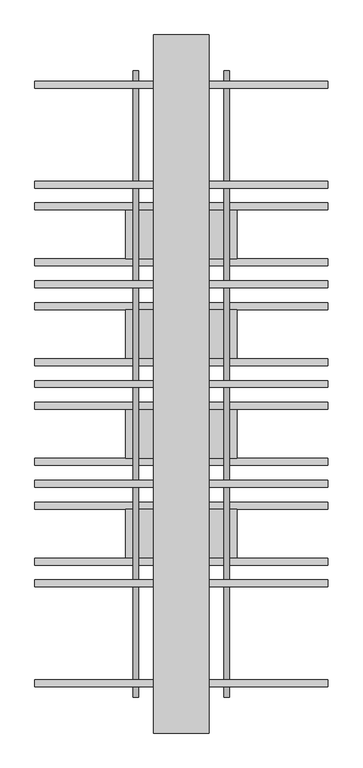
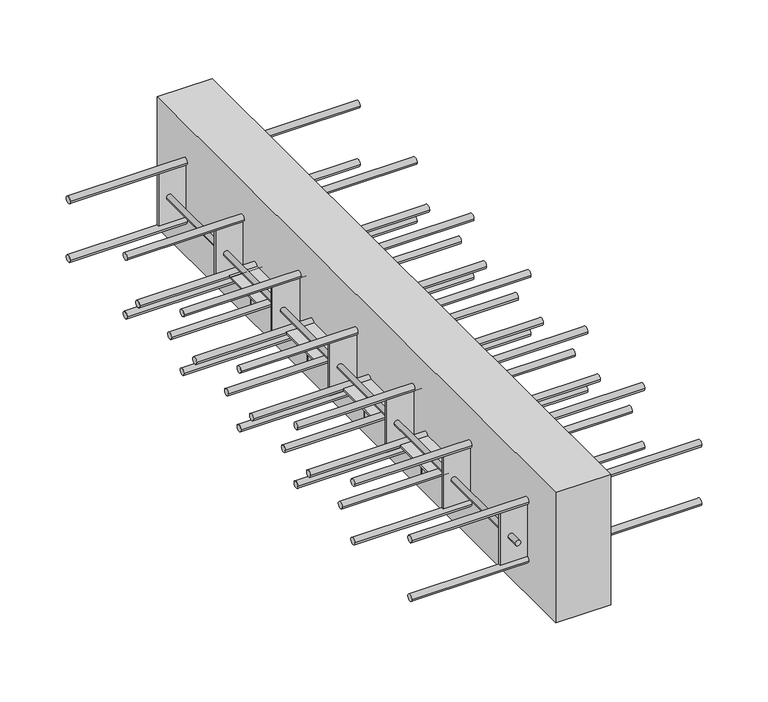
"""IFC4 building model written with IfcOpenShell, lengths in millimetres: proxy geometry, ACINOXplus_Typenreihe_Q : QF+ S4."""

from ifc_helpers import new_model, si_unit, point, frame, frame_2d, origin, place, context, project, spatial, polyline, circle_curve, trimmed, segment, composite_curve, outline, extrude, source, transform, mapped, element, save
from ifc_brep_helpers import plane_surface, cylinder_surface, advanced_brep


def generic_models_2d4b5c1f(model_context):
    return source(origin(), model_context, "Body", "SolidModel", [
        extrude(outline(composite_curve([segment(trimmed(circle_curve(frame_2d((-254.2857143, -109.0)), 5.0), [point((-259.2857143, -109.0))], [point((-249.2857143, -109.0))], False, "CARTESIAN"), True, "CONTINUOUS"), segment(trimmed(circle_curve(frame_2d((-254.2857143, -109.0)), 5.0), [point((-249.2857143, -109.0))], [point((-259.2857143, -109.0))], False, "CARTESIAN"), True, "CONTINUOUS")], self_intersect=False)), frame((-210.0, 0.0, 0.0), z_axis=(1.0, 0.0, 0.0), x_axis=(0.0, 1.0, 0.0)), (0.0, 0.0, 1.0), 420.0),
        extrude(outline(composite_curve([segment(trimmed(circle_curve(frame_2d((-174.2857143, -109.0)), 5.0), [point((-179.2857143, -109.0))], [point((-169.2857143, -109.0))], False, "CARTESIAN"), True, "CONTINUOUS"), segment(trimmed(circle_curve(frame_2d((-174.2857143, -109.0)), 5.0), [point((-169.2857143, -109.0))], [point((-179.2857143, -109.0))], False, "CARTESIAN"), True, "CONTINUOUS")], self_intersect=False)), frame((-210.0, 0.0, 0.0), z_axis=(1.0, 0.0, 0.0), x_axis=(0.0, 1.0, 0.0)), (0.0, 0.0, 1.0), 420.0),
        advanced_brep(
        [(-69.0, -214.2857143, -137.0), (-61.0, -214.2857143, -137.0), (61.0, -214.2857143, -137.0), (69.0, -214.2857143, -137.0), (-61.0, -214.2857143, -110.5), (-69.0, -214.2857143, -110.5), (69.0, -214.2857143, -110.5), (61.0, -214.2857143, -110.5), (80.0, -179.2857143, -107.5), (-80.0, -179.2857143, -107.5), (-80.0, -249.2857143, -107.5), (80.0, -249.2857143, -107.5), (80.0, -179.2857143, -110.5), (80.0, -249.2857143, -110.5), (-80.0, -249.2857143, -110.5), (-80.0, -179.2857143, -110.5)],
        [
            (0, 1, circle_curve(frame((-65.0, -214.2857143, -137.0), z_axis=(0.0, 0.0, -1.0), x_axis=(1.0, 0.0, 0.0)), 4.0)),
            (1, 0, circle_curve(frame((-65.0, -214.2857143, -137.0), z_axis=(0.0, 0.0, -1.0), x_axis=(1.0, 0.0, 0.0)), 4.0)),
            (2, 3, circle_curve(frame((65.0, -214.2857143, -137.0), z_axis=(0.0, 0.0, -1.0), x_axis=(1.0, 0.0, 0.0)), 4.0)),
            (3, 2, circle_curve(frame((65.0, -214.2857143, -137.0), z_axis=(0.0, 0.0, -1.0), x_axis=(1.0, 0.0, 0.0)), 4.0)),
            (1, 4),
            (4, 5, circle_curve(frame((-65.0, -214.2857143, -110.5), z_axis=(0.0, 0.0, -1.0), x_axis=(1.0, 0.0, 0.0)), 4.0)),
            (5, 0),
            (5, 4, circle_curve(frame((-65.0, -214.2857143, -110.5), z_axis=(0.0, 0.0, -1.0), x_axis=(1.0, 0.0, 0.0)), 4.0)),
            (3, 6),
            (6, 7, circle_curve(frame((65.0, -214.2857143, -110.5), z_axis=(0.0, 0.0, -1.0), x_axis=(1.0, 0.0, 0.0)), 4.0)),
            (7, 2),
            (7, 6, circle_curve(frame((65.0, -214.2857143, -110.5), z_axis=(0.0, 0.0, -1.0), x_axis=(1.0, 0.0, 0.0)), 4.0)),
            (8, 9),
            (9, 10),
            (10, 11),
            (11, 8),
            (12, 13),
            (13, 14),
            (14, 15),
            (15, 12),
            (8, 12),
            (15, 9),
            (14, 10),
            (13, 11),
        ],
        [
            plane_surface(frame((-61.0, -214.2857143, -137.0), z_axis=(0.0, 0.0, -1.0), x_axis=(0.0, -1.0, 0.0))),
            cylinder_surface(frame((-65.0, -214.2857143, -137.0), z_axis=(0.0, 0.0, 1.0), x_axis=(1.0, 0.0, 0.0)), 4.0),
            cylinder_surface(frame((65.0, -214.2857143, -109.0), z_axis=(0.0, 0.0, 1.0), x_axis=(1.0, 0.0, 0.0)), 4.0),
            plane_surface(frame((-80.0, -179.2857143, -107.5), z_axis=(0.0, 0.0, 1.0), x_axis=(-1.0, 0.0, 0.0))),
            plane_surface(frame((-80.0, -179.2857143, -110.5), z_axis=(0.0, 0.0, -1.0), x_axis=(1.0, 0.0, 0.0))),
            plane_surface(frame((80.0, -179.2857143, -107.5), z_axis=(0.0, 1.0, 0.0), x_axis=(0.0, 0.0, -1.0))),
            plane_surface(frame((-80.0, -179.2857143, -107.5), z_axis=(-1.0, 0.0, 0.0), x_axis=(0.0, 0.0, -1.0))),
            plane_surface(frame((-80.0, -249.2857143, -107.5), z_axis=(0.0, -1.0, 0.0), x_axis=(0.0, 0.0, -1.0))),
            plane_surface(frame((80.0, -249.2857143, -107.5), z_axis=(1.0, 0.0, 0.0), x_axis=(0.0, 0.0, -1.0))),
        ],
        [
            (0, [[1, 2]]),
            (0, [[3, 4]]),
            (1, [[-2, 5, 6, 7]]),
            (1, [[-1, -7, 8, -5]]),
            (2, [[-4, 9, 10, 11]]),
            (2, [[-3, -11, 12, -9]]),
            (3, [[13, 14, 15, 16]]),
            (4, [[17, 18, 19, 20], [-6, -8], [-10, -12]]),
            (5, [[-13, 21, -20, 22]]),
            (6, [[-14, -22, -19, 23]]),
            (7, [[-15, -23, -18, 24]]),
            (8, [[-16, -24, -17, -21]]),
        ],
    ),
        extrude(outline(composite_curve([segment(trimmed(circle_curve(frame_2d((174.2857143, -109.0)), 5.0), [point((169.2857143, -109.0))], [point((179.2857143, -109.0))], False, "CARTESIAN"), True, "CONTINUOUS"), segment(trimmed(circle_curve(frame_2d((174.2857143, -109.0)), 5.0), [point((179.2857143, -109.0))], [point((169.2857143, -109.0))], False, "CARTESIAN"), True, "CONTINUOUS")], self_intersect=False)), frame((-210.0, 0.0, 0.0), z_axis=(1.0, 0.0, 0.0), x_axis=(0.0, 1.0, 0.0)), (0.0, 0.0, 1.0), 420.0),
        extrude(outline(composite_curve([segment(trimmed(circle_curve(frame_2d((254.2857143, -109.0)), 5.0), [point((249.2857143, -109.0))], [point((259.2857143, -109.0))], False, "CARTESIAN"), True, "CONTINUOUS"), segment(trimmed(circle_curve(frame_2d((254.2857143, -109.0)), 5.0), [point((259.2857143, -109.0))], [point((249.2857143, -109.0))], False, "CARTESIAN"), True, "CONTINUOUS")], self_intersect=False)), frame((-210.0, 0.0, 0.0), z_axis=(1.0, 0.0, 0.0), x_axis=(0.0, 1.0, 0.0)), (0.0, 0.0, 1.0), 420.0),
        advanced_brep(
        [(-69.0, 214.2857143, -137.0), (-61.0, 214.2857143, -137.0), (61.0, 214.2857143, -137.0), (69.0, 214.2857143, -137.0), (-61.0, 214.2857143, -110.5), (-69.0, 214.2857143, -110.5), (69.0, 214.2857143, -110.5), (61.0, 214.2857143, -110.5), (80.0, 249.2857143, -107.5), (-80.0, 249.2857143, -107.5), (-80.0, 179.2857143, -107.5), (80.0, 179.2857143, -107.5), (80.0, 249.2857143, -110.5), (80.0, 179.2857143, -110.5), (-80.0, 179.2857143, -110.5), (-80.0, 249.2857143, -110.5)],
        [
            (0, 1, circle_curve(frame((-65.0, 214.2857143, -137.0), z_axis=(0.0, 0.0, -1.0), x_axis=(1.0, 0.0, 0.0)), 4.0)),
            (1, 0, circle_curve(frame((-65.0, 214.2857143, -137.0), z_axis=(0.0, 0.0, -1.0), x_axis=(1.0, 0.0, 0.0)), 4.0)),
            (2, 3, circle_curve(frame((65.0, 214.2857143, -137.0), z_axis=(0.0, 0.0, -1.0), x_axis=(1.0, 0.0, 0.0)), 4.0)),
            (3, 2, circle_curve(frame((65.0, 214.2857143, -137.0), z_axis=(0.0, 0.0, -1.0), x_axis=(1.0, 0.0, 0.0)), 4.0)),
            (1, 4),
            (4, 5, circle_curve(frame((-65.0, 214.2857143, -110.5), z_axis=(0.0, 0.0, -1.0), x_axis=(1.0, 0.0, 0.0)), 4.0)),
            (5, 0),
            (5, 4, circle_curve(frame((-65.0, 214.2857143, -110.5), z_axis=(0.0, 0.0, -1.0), x_axis=(1.0, 0.0, 0.0)), 4.0)),
            (3, 6),
            (6, 7, circle_curve(frame((65.0, 214.2857143, -110.5), z_axis=(0.0, 0.0, -1.0), x_axis=(1.0, 0.0, 0.0)), 4.0)),
            (7, 2),
            (7, 6, circle_curve(frame((65.0, 214.2857143, -110.5), z_axis=(0.0, 0.0, -1.0), x_axis=(1.0, 0.0, 0.0)), 4.0)),
            (8, 9),
            (9, 10),
            (10, 11),
            (11, 8),
            (12, 13),
            (13, 14),
            (14, 15),
            (15, 12),
            (8, 12),
            (15, 9),
            (14, 10),
            (13, 11),
        ],
        [
            plane_surface(frame((-61.0, 214.2857143, -137.0), z_axis=(0.0, 0.0, -1.0), x_axis=(0.0, -1.0, 0.0))),
            cylinder_surface(frame((-65.0, 214.2857143, -137.0), z_axis=(0.0, 0.0, 1.0), x_axis=(1.0, 0.0, 0.0)), 4.0),
            cylinder_surface(frame((65.0, 214.2857143, -109.0), z_axis=(0.0, 0.0, 1.0), x_axis=(1.0, 0.0, 0.0)), 4.0),
            plane_surface(frame((-80.0, 249.2857143, -107.5), z_axis=(0.0, 0.0, 1.0), x_axis=(-1.0, 0.0, 0.0))),
            plane_surface(frame((-80.0, 249.2857143, -110.5), z_axis=(0.0, 0.0, -1.0), x_axis=(1.0, 0.0, 0.0))),
            plane_surface(frame((80.0, 249.2857143, -107.5), z_axis=(0.0, 1.0, 0.0), x_axis=(0.0, 0.0, -1.0))),
            plane_surface(frame((-80.0, 249.2857143, -107.5), z_axis=(-1.0, 0.0, 0.0), x_axis=(0.0, 0.0, -1.0))),
            plane_surface(frame((-80.0, 179.2857143, -107.5), z_axis=(0.0, -1.0, 0.0), x_axis=(0.0, 0.0, -1.0))),
            plane_surface(frame((80.0, 179.2857143, -107.5), z_axis=(1.0, 0.0, 0.0), x_axis=(0.0, 0.0, -1.0))),
        ],
        [
            (0, [[1, 2]]),
            (0, [[3, 4]]),
            (1, [[-2, 5, 6, 7]]),
            (1, [[-1, -7, 8, -5]]),
            (2, [[-4, 9, 10, 11]]),
            (2, [[-3, -11, 12, -9]]),
            (3, [[13, 14, 15, 16]]),
            (4, [[17, 18, 19, 20], [-6, -8], [-10, -12]]),
            (5, [[-13, 21, -20, 22]]),
            (6, [[-14, -22, -19, 23]]),
            (7, [[-15, -23, -18, 24]]),
            (8, [[-16, -24, -17, -21]]),
        ],
    ),
        extrude(outline(composite_curve([segment(trimmed(circle_curve(frame_2d((-111.4285714, -109.0)), 5.0), [point((-116.4285714, -109.0))], [point((-106.4285714, -109.0))], False, "CARTESIAN"), True, "CONTINUOUS"), segment(trimmed(circle_curve(frame_2d((-111.4285714, -109.0)), 5.0), [point((-106.4285714, -109.0))], [point((-116.4285714, -109.0))], False, "CARTESIAN"), True, "CONTINUOUS")], self_intersect=False)), frame((-210.0, 0.0, 0.0), z_axis=(1.0, 0.0, 0.0), x_axis=(0.0, 1.0, 0.0)), (0.0, 0.0, 1.0), 420.0),
        extrude(outline(composite_curve([segment(trimmed(circle_curve(frame_2d((-31.4285714, -109.0)), 5.0), [point((-36.4285714, -109.0))], [point((-26.4285714, -109.0))], False, "CARTESIAN"), True, "CONTINUOUS"), segment(trimmed(circle_curve(frame_2d((-31.4285714, -109.0)), 5.0), [point((-26.4285714, -109.0))], [point((-36.4285714, -109.0))], False, "CARTESIAN"), True, "CONTINUOUS")], self_intersect=False)), frame((-210.0, 0.0, 0.0), z_axis=(1.0, 0.0, 0.0), x_axis=(0.0, 1.0, 0.0)), (0.0, 0.0, 1.0), 420.0),
        advanced_brep(
        [(-69.0, -71.4285714, -137.0), (-61.0, -71.4285714, -137.0), (61.0, -71.4285714, -137.0), (69.0, -71.4285714, -137.0), (-61.0, -71.4285714, -110.5), (-69.0, -71.4285714, -110.5), (69.0, -71.4285714, -110.5), (61.0, -71.4285714, -110.5), (80.0, -36.4285714, -107.5), (-80.0, -36.4285714, -107.5), (-80.0, -106.4285714, -107.5), (80.0, -106.4285714, -107.5), (80.0, -36.4285714, -110.5), (80.0, -106.4285714, -110.5), (-80.0, -106.4285714, -110.5), (-80.0, -36.4285714, -110.5)],
        [
            (0, 1, circle_curve(frame((-65.0, -71.4285714, -137.0), z_axis=(0.0, 0.0, -1.0), x_axis=(1.0, 0.0, 0.0)), 4.0)),
            (1, 0, circle_curve(frame((-65.0, -71.4285714, -137.0), z_axis=(0.0, 0.0, -1.0), x_axis=(1.0, 0.0, 0.0)), 4.0)),
            (2, 3, circle_curve(frame((65.0, -71.4285714, -137.0), z_axis=(0.0, 0.0, -1.0), x_axis=(1.0, 0.0, 0.0)), 4.0)),
            (3, 2, circle_curve(frame((65.0, -71.4285714, -137.0), z_axis=(0.0, 0.0, -1.0), x_axis=(1.0, 0.0, 0.0)), 4.0)),
            (1, 4),
            (4, 5, circle_curve(frame((-65.0, -71.4285714, -110.5), z_axis=(0.0, 0.0, -1.0), x_axis=(1.0, 0.0, 0.0)), 4.0)),
            (5, 0),
            (5, 4, circle_curve(frame((-65.0, -71.4285714, -110.5), z_axis=(0.0, 0.0, -1.0), x_axis=(1.0, 0.0, 0.0)), 4.0)),
            (3, 6),
            (6, 7, circle_curve(frame((65.0, -71.4285714, -110.5), z_axis=(0.0, 0.0, -1.0), x_axis=(1.0, 0.0, 0.0)), 4.0)),
            (7, 2),
            (7, 6, circle_curve(frame((65.0, -71.4285714, -110.5), z_axis=(0.0, 0.0, -1.0), x_axis=(1.0, 0.0, 0.0)), 4.0)),
            (8, 9),
            (9, 10),
            (10, 11),
            (11, 8),
            (12, 13),
            (13, 14),
            (14, 15),
            (15, 12),
            (8, 12),
            (15, 9),
            (14, 10),
            (13, 11),
        ],
        [
            plane_surface(frame((-61.0, -71.4285714, -137.0), z_axis=(0.0, 0.0, -1.0), x_axis=(0.0, -1.0, 0.0))),
            cylinder_surface(frame((-65.0, -71.4285714, -137.0), z_axis=(0.0, 0.0, 1.0), x_axis=(1.0, 0.0, 0.0)), 4.0),
            cylinder_surface(frame((65.0, -71.4285714, -109.0), z_axis=(0.0, 0.0, 1.0), x_axis=(1.0, 0.0, 0.0)), 4.0),
            plane_surface(frame((-80.0, -36.4285714, -107.5), z_axis=(0.0, 0.0, 1.0), x_axis=(-1.0, 0.0, 0.0))),
            plane_surface(frame((-80.0, -36.4285714, -110.5), z_axis=(0.0, 0.0, -1.0), x_axis=(1.0, 0.0, 0.0))),
            plane_surface(frame((80.0, -36.4285714, -107.5), z_axis=(0.0, 1.0, 0.0), x_axis=(0.0, 0.0, -1.0))),
            plane_surface(frame((-80.0, -36.4285714, -107.5), z_axis=(-1.0, 0.0, 0.0), x_axis=(0.0, 0.0, -1.0))),
            plane_surface(frame((-80.0, -106.4285714, -107.5), z_axis=(0.0, -1.0, 0.0), x_axis=(0.0, 0.0, -1.0))),
            plane_surface(frame((80.0, -106.4285714, -107.5), z_axis=(1.0, 0.0, 0.0), x_axis=(0.0, 0.0, -1.0))),
        ],
        [
            (0, [[1, 2]]),
            (0, [[3, 4]]),
            (1, [[-2, 5, 6, 7]]),
            (1, [[-1, -7, 8, -5]]),
            (2, [[-4, 9, 10, 11]]),
            (2, [[-3, -11, 12, -9]]),
            (3, [[13, 14, 15, 16]]),
            (4, [[17, 18, 19, 20], [-6, -8], [-10, -12]]),
            (5, [[-13, 21, -20, 22]]),
            (6, [[-14, -22, -19, 23]]),
            (7, [[-15, -23, -18, 24]]),
            (8, [[-16, -24, -17, -21]]),
        ],
    ),
        extrude(outline(composite_curve([segment(trimmed(circle_curve(frame_2d((31.4285714, -109.0)), 5.0), [point((26.4285714, -109.0))], [point((36.4285714, -109.0))], False, "CARTESIAN"), True, "CONTINUOUS"), segment(trimmed(circle_curve(frame_2d((31.4285714, -109.0)), 5.0), [point((36.4285714, -109.0))], [point((26.4285714, -109.0))], False, "CARTESIAN"), True, "CONTINUOUS")], self_intersect=False)), frame((-210.0, 0.0, 0.0), z_axis=(1.0, 0.0, 0.0), x_axis=(0.0, 1.0, 0.0)), (0.0, 0.0, 1.0), 420.0),
        extrude(outline(composite_curve([segment(trimmed(circle_curve(frame_2d((111.4285714, -109.0)), 5.0), [point((106.4285714, -109.0))], [point((116.4285714, -109.0))], False, "CARTESIAN"), True, "CONTINUOUS"), segment(trimmed(circle_curve(frame_2d((111.4285714, -109.0)), 5.0), [point((116.4285714, -109.0))], [point((106.4285714, -109.0))], False, "CARTESIAN"), True, "CONTINUOUS")], self_intersect=False)), frame((-210.0, 0.0, 0.0), z_axis=(1.0, 0.0, 0.0), x_axis=(0.0, 1.0, 0.0)), (0.0, 0.0, 1.0), 420.0),
        advanced_brep(
        [(-69.0, 71.4285714, -137.0), (-61.0, 71.4285714, -137.0), (61.0, 71.4285714, -137.0), (69.0, 71.4285714, -137.0), (-61.0, 71.4285714, -110.5), (-69.0, 71.4285714, -110.5), (69.0, 71.4285714, -110.5), (61.0, 71.4285714, -110.5), (80.0, 106.4285714, -107.5), (-80.0, 106.4285714, -107.5), (-80.0, 36.4285714, -107.5), (80.0, 36.4285714, -107.5), (80.0, 106.4285714, -110.5), (80.0, 36.4285714, -110.5), (-80.0, 36.4285714, -110.5), (-80.0, 106.4285714, -110.5)],
        [
            (0, 1, circle_curve(frame((-65.0, 71.4285714, -137.0), z_axis=(0.0, 0.0, -1.0), x_axis=(1.0, 0.0, 0.0)), 4.0)),
            (1, 0, circle_curve(frame((-65.0, 71.4285714, -137.0), z_axis=(0.0, 0.0, -1.0), x_axis=(1.0, 0.0, 0.0)), 4.0)),
            (2, 3, circle_curve(frame((65.0, 71.4285714, -137.0), z_axis=(0.0, 0.0, -1.0), x_axis=(1.0, 0.0, 0.0)), 4.0)),
            (3, 2, circle_curve(frame((65.0, 71.4285714, -137.0), z_axis=(0.0, 0.0, -1.0), x_axis=(1.0, 0.0, 0.0)), 4.0)),
            (1, 4),
            (4, 5, circle_curve(frame((-65.0, 71.4285714, -110.5), z_axis=(0.0, 0.0, -1.0), x_axis=(1.0, 0.0, 0.0)), 4.0)),
            (5, 0),
            (5, 4, circle_curve(frame((-65.0, 71.4285714, -110.5), z_axis=(0.0, 0.0, -1.0), x_axis=(1.0, 0.0, 0.0)), 4.0)),
            (3, 6),
            (6, 7, circle_curve(frame((65.0, 71.4285714, -110.5), z_axis=(0.0, 0.0, -1.0), x_axis=(1.0, 0.0, 0.0)), 4.0)),
            (7, 2),
            (7, 6, circle_curve(frame((65.0, 71.4285714, -110.5), z_axis=(0.0, 0.0, -1.0), x_axis=(1.0, 0.0, 0.0)), 4.0)),
            (8, 9),
            (9, 10),
            (10, 11),
            (11, 8),
            (12, 13),
            (13, 14),
            (14, 15),
            (15, 12),
            (8, 12),
            (15, 9),
            (14, 10),
            (13, 11),
        ],
        [
            plane_surface(frame((-61.0, 71.4285714, -137.0), z_axis=(0.0, 0.0, -1.0), x_axis=(0.0, -1.0, 0.0))),
            cylinder_surface(frame((-65.0, 71.4285714, -137.0), z_axis=(0.0, 0.0, 1.0), x_axis=(1.0, 0.0, 0.0)), 4.0),
            cylinder_surface(frame((65.0, 71.4285714, -109.0), z_axis=(0.0, 0.0, 1.0), x_axis=(1.0, 0.0, 0.0)), 4.0),
            plane_surface(frame((-80.0, 106.4285714, -107.5), z_axis=(0.0, 0.0, 1.0), x_axis=(-1.0, 0.0, 0.0))),
            plane_surface(frame((-80.0, 106.4285714, -110.5), z_axis=(0.0, 0.0, -1.0), x_axis=(1.0, 0.0, 0.0))),
            plane_surface(frame((80.0, 106.4285714, -107.5), z_axis=(0.0, 1.0, 0.0), x_axis=(0.0, 0.0, -1.0))),
            plane_surface(frame((-80.0, 106.4285714, -107.5), z_axis=(-1.0, 0.0, 0.0), x_axis=(0.0, 0.0, -1.0))),
            plane_surface(frame((-80.0, 36.4285714, -107.5), z_axis=(0.0, -1.0, 0.0), x_axis=(0.0, 0.0, -1.0))),
            plane_surface(frame((80.0, 36.4285714, -107.5), z_axis=(1.0, 0.0, 0.0), x_axis=(0.0, 0.0, -1.0))),
        ],
        [
            (0, [[1, 2]]),
            (0, [[3, 4]]),
            (1, [[-2, 5, 6, 7]]),
            (1, [[-1, -7, 8, -5]]),
            (2, [[-4, 9, 10, 11]]),
            (2, [[-3, -11, 12, -9]]),
            (3, [[13, 14, 15, 16]]),
            (4, [[17, 18, 19, 20], [-6, -8], [-10, -12]]),
            (5, [[-13, 21, -20, 22]]),
            (6, [[-14, -22, -19, 23]]),
            (7, [[-15, -23, -18, 24]]),
            (8, [[-16, -24, -17, -21]]),
        ],
    ),
        extrude(outline(polyline([(40.0, 500.0), (40.0, -500.0), (-40.0, -500.0), (-40.0, 500.0), (40.0, 500.0)])), frame((0.0, 0.0, -200.0), z_axis=(0.0, 0.0, 1.0), x_axis=(1.0, 0.0, 0.0)), (0.0, 0.0, 1.0), 200.0),
        extrude(outline(polyline([(80.0, -284.2142857), (80.0, -287.2142857), (-80.0, -287.2142857), (-80.0, -284.2142857), (80.0, -284.2142857)])), frame((0.0, 0.0, -140.0), z_axis=(0.0, 0.0, 1.0), x_axis=(1.0, 0.0, 0.0)), (0.0, 0.0, 1.0), 80.0),
        extrude(outline(polyline([(80.0, -141.3571429), (80.0, -144.3571429), (-80.0, -144.3571429), (-80.0, -141.3571429), (80.0, -141.3571429)])), frame((0.0, 0.0, -140.0), z_axis=(0.0, 0.0, 1.0), x_axis=(1.0, 0.0, 0.0)), (0.0, 0.0, 1.0), 80.0),
        extrude(outline(polyline([(80.0, 1.5), (80.0, -1.5), (-80.0, -1.5), (-80.0, 1.5), (80.0, 1.5)])), frame((0.0, 0.0, -140.0), z_axis=(0.0, 0.0, 1.0), x_axis=(1.0, 0.0, 0.0)), (0.0, 0.0, 1.0), 80.0),
        extrude(outline(polyline([(80.0, 144.3571429), (80.0, 141.3571429), (-80.0, 141.3571429), (-80.0, 144.3571429), (80.0, 144.3571429)])), frame((0.0, 0.0, -140.0), z_axis=(0.0, 0.0, 1.0), x_axis=(1.0, 0.0, 0.0)), (0.0, 0.0, 1.0), 80.0),
        extrude(outline(polyline([(80.0, 287.2142857), (80.0, 284.2142857), (-80.0, 284.2142857), (-80.0, 287.2142857), (80.0, 287.2142857)])), frame((0.0, 0.0, -140.0), z_axis=(0.0, 0.0, 1.0), x_axis=(1.0, 0.0, 0.0)), (0.0, 0.0, 1.0), 80.0),
        extrude(outline(polyline([(80.0, -427.0714286), (80.0, -430.0714286), (-80.0, -430.0714286), (-80.0, -427.0714286), (80.0, -427.0714286)])), frame((0.0, 0.0, -140.0), z_axis=(0.0, 0.0, 1.0), x_axis=(1.0, 0.0, 0.0)), (0.0, 0.0, 1.0), 80.0),
        extrude(outline(polyline([(80.0, 430.0714286), (80.0, 427.0714286), (-80.0, 427.0714286), (-80.0, 430.0714286), (80.0, 430.0714286)])), frame((0.0, 0.0, -140.0), z_axis=(0.0, 0.0, 1.0), x_axis=(1.0, 0.0, 0.0)), (0.0, 0.0, 1.0), 80.0),
        extrude(outline(composite_curve([segment(trimmed(circle_curve(frame_2d((-100.0, -65.0)), 4.0), [point((-100.0, -69.0))], [point((-100.0, -61.0))], False, "CARTESIAN"), True, "CONTINUOUS"), segment(trimmed(circle_curve(frame_2d((-100.0, -65.0)), 4.0), [point((-100.0, -61.0))], [point((-100.0, -69.0))], False, "CARTESIAN"), True, "CONTINUOUS")], self_intersect=False)), frame((0.0, -427.0714286, 0.0), z_axis=(0.0, 1.0, 0.0), x_axis=(0.0, 0.0, 1.0)), (0.0, 0.0, 1.0), 711.2857143),
        extrude(outline(composite_curve([segment(trimmed(circle_curve(frame_2d((-100.0, -65.0)), 4.0), [point((-100.0, -69.0))], [point((-100.0, -61.0))], False, "CARTESIAN"), True, "CONTINUOUS"), segment(trimmed(circle_curve(frame_2d((-100.0, -65.0)), 4.0), [point((-100.0, -61.0))], [point((-100.0, -69.0))], False, "CARTESIAN"), True, "CONTINUOUS")], self_intersect=False)), frame((0.0, 430.0714286, 0.0), z_axis=(0.0, 1.0, 0.0), x_axis=(0.0, 0.0, 1.0)), (0.0, 0.0, 1.0), 18.5),
        extrude(outline(composite_curve([segment(trimmed(circle_curve(frame_2d((-100.0, -65.0)), 4.0), [point((-100.0, -61.0))], [point((-100.0, -69.0))], False, "CARTESIAN"), True, "CONTINUOUS"), segment(trimmed(circle_curve(frame_2d((-100.0, -65.0)), 4.0), [point((-100.0, -69.0))], [point((-100.0, -61.0))], False, "CARTESIAN"), True, "CONTINUOUS")], self_intersect=False)), frame((0.0, -448.5714286, 0.0), z_axis=(0.0, 1.0, 0.0), x_axis=(0.0, 0.0, 1.0)), (0.0, 0.0, 1.0), 18.5),
        extrude(outline(composite_curve([segment(trimmed(circle_curve(frame_2d((-100.0, -65.0)), 4.0), [point((-100.0, -69.0))], [point((-100.0, -61.0))], False, "CARTESIAN"), True, "CONTINUOUS"), segment(trimmed(circle_curve(frame_2d((-100.0, -65.0)), 4.0), [point((-100.0, -61.0))], [point((-100.0, -69.0))], False, "CARTESIAN"), True, "CONTINUOUS")], self_intersect=False)), frame((0.0, 287.2142857, 0.0), z_axis=(0.0, 1.0, 0.0), x_axis=(0.0, 0.0, 1.0)), (0.0, 0.0, 1.0), 139.8571429),
        extrude(outline(composite_curve([segment(trimmed(circle_curve(frame_2d((-100.0, 65.0)), 4.0), [point((-100.0, 61.0))], [point((-100.0, 69.0))], False, "CARTESIAN"), True, "CONTINUOUS"), segment(trimmed(circle_curve(frame_2d((-100.0, 65.0)), 4.0), [point((-100.0, 69.0))], [point((-100.0, 61.0))], False, "CARTESIAN"), True, "CONTINUOUS")], self_intersect=False)), frame((0.0, -427.0714286, 0.0), z_axis=(0.0, 1.0, 0.0), x_axis=(0.0, 0.0, 1.0)), (0.0, 0.0, 1.0), 711.2857143),
        extrude(outline(composite_curve([segment(trimmed(circle_curve(frame_2d((-100.0, 65.0)), 4.0), [point((-100.0, 61.0))], [point((-100.0, 69.0))], False, "CARTESIAN"), True, "CONTINUOUS"), segment(trimmed(circle_curve(frame_2d((-100.0, 65.0)), 4.0), [point((-100.0, 69.0))], [point((-100.0, 61.0))], False, "CARTESIAN"), True, "CONTINUOUS")], self_intersect=False)), frame((0.0, 430.0714286, 0.0), z_axis=(0.0, 1.0, 0.0), x_axis=(0.0, 0.0, 1.0)), (0.0, 0.0, 1.0), 18.5),
        extrude(outline(composite_curve([segment(trimmed(circle_curve(frame_2d((-100.0, 65.0)), 4.0), [point((-100.0, 69.0))], [point((-100.0, 61.0))], False, "CARTESIAN"), True, "CONTINUOUS"), segment(trimmed(circle_curve(frame_2d((-100.0, 65.0)), 4.0), [point((-100.0, 61.0))], [point((-100.0, 69.0))], False, "CARTESIAN"), True, "CONTINUOUS")], self_intersect=False)), frame((0.0, -448.5714286, 0.0), z_axis=(0.0, 1.0, 0.0), x_axis=(0.0, 0.0, 1.0)), (0.0, 0.0, 1.0), 18.5),
        extrude(outline(composite_curve([segment(trimmed(circle_curve(frame_2d((-100.0, 65.0)), 4.0), [point((-100.0, 61.0))], [point((-100.0, 69.0))], False, "CARTESIAN"), True, "CONTINUOUS"), segment(trimmed(circle_curve(frame_2d((-100.0, 65.0)), 4.0), [point((-100.0, 69.0))], [point((-100.0, 61.0))], False, "CARTESIAN"), True, "CONTINUOUS")], self_intersect=False)), frame((0.0, 287.2142857, 0.0), z_axis=(0.0, 1.0, 0.0), x_axis=(0.0, 0.0, 1.0)), (0.0, 0.0, 1.0), 139.8571429),
        extrude(outline(composite_curve([segment(trimmed(circle_curve(frame_2d((142.8571429, -145.0)), 5.0), [point((137.8571429, -145.0))], [point((147.8571429, -145.0))], False, "CARTESIAN"), True, "CONTINUOUS"), segment(trimmed(circle_curve(frame_2d((142.8571429, -145.0)), 5.0), [point((147.8571429, -145.0))], [point((137.8571429, -145.0))], False, "CARTESIAN"), True, "CONTINUOUS")], self_intersect=False)), frame((-210.0, 0.0, 0.0), z_axis=(1.0, 0.0, 0.0), x_axis=(0.0, 1.0, 0.0)), (0.0, 0.0, 1.0), 420.0),
        extrude(outline(composite_curve([segment(trimmed(circle_curve(frame_2d((0.0, -145.0)), 5.0), [point((-5.0, -145.0))], [point((5.0, -145.0))], False, "CARTESIAN"), True, "CONTINUOUS"), segment(trimmed(circle_curve(frame_2d((0.0, -145.0)), 5.0), [point((5.0, -145.0))], [point((-5.0, -145.0))], False, "CARTESIAN"), True, "CONTINUOUS")], self_intersect=False)), frame((-210.0, 0.0, 0.0), z_axis=(1.0, 0.0, 0.0), x_axis=(0.0, 1.0, 0.0)), (0.0, 0.0, 1.0), 420.0),
        extrude(outline(composite_curve([segment(trimmed(circle_curve(frame_2d((-142.8571429, -145.0)), 5.0), [point((-147.8571429, -145.0))], [point((-137.8571429, -145.0))], False, "CARTESIAN"), True, "CONTINUOUS"), segment(trimmed(circle_curve(frame_2d((-142.8571429, -145.0)), 5.0), [point((-137.8571429, -145.0))], [point((-147.8571429, -145.0))], False, "CARTESIAN"), True, "CONTINUOUS")], self_intersect=False)), frame((-210.0, 0.0, 0.0), z_axis=(1.0, 0.0, 0.0), x_axis=(0.0, 1.0, 0.0)), (0.0, 0.0, 1.0), 420.0),
        extrude(outline(composite_curve([segment(trimmed(circle_curve(frame_2d((285.7142857, -145.0)), 5.0), [point((280.7142857, -145.0))], [point((290.7142857, -145.0))], False, "CARTESIAN"), True, "CONTINUOUS"), segment(trimmed(circle_curve(frame_2d((285.7142857, -145.0)), 5.0), [point((290.7142857, -145.0))], [point((280.7142857, -145.0))], False, "CARTESIAN"), True, "CONTINUOUS")], self_intersect=False)), frame((-210.0, 0.0, 0.0), z_axis=(1.0, 0.0, 0.0), x_axis=(0.0, 1.0, 0.0)), (0.0, 0.0, 1.0), 420.0),
        extrude(outline(composite_curve([segment(trimmed(circle_curve(frame_2d((428.5714286, -145.0)), 5.0), [point((423.5714286, -145.0))], [point((433.5714286, -145.0))], False, "CARTESIAN"), True, "CONTINUOUS"), segment(trimmed(circle_curve(frame_2d((428.5714286, -145.0)), 5.0), [point((433.5714286, -145.0))], [point((423.5714286, -145.0))], False, "CARTESIAN"), True, "CONTINUOUS")], self_intersect=False)), frame((-210.0, 0.0, 0.0), z_axis=(1.0, 0.0, 0.0), x_axis=(0.0, 1.0, 0.0)), (0.0, 0.0, 1.0), 420.0),
        extrude(outline(composite_curve([segment(trimmed(circle_curve(frame_2d((-285.7142857, -145.0)), 5.0), [point((-290.7142857, -145.0))], [point((-280.7142857, -145.0))], False, "CARTESIAN"), True, "CONTINUOUS"), segment(trimmed(circle_curve(frame_2d((-285.7142857, -145.0)), 5.0), [point((-280.7142857, -145.0))], [point((-290.7142857, -145.0))], False, "CARTESIAN"), True, "CONTINUOUS")], self_intersect=False)), frame((-210.0, 0.0, 0.0), z_axis=(1.0, 0.0, 0.0), x_axis=(0.0, 1.0, 0.0)), (0.0, 0.0, 1.0), 420.0),
        extrude(outline(composite_curve([segment(trimmed(circle_curve(frame_2d((-428.5714286, -145.0)), 5.0), [point((-433.5714286, -145.0))], [point((-423.5714286, -145.0))], False, "CARTESIAN"), True, "CONTINUOUS"), segment(trimmed(circle_curve(frame_2d((-428.5714286, -145.0)), 5.0), [point((-423.5714286, -145.0))], [point((-433.5714286, -145.0))], False, "CARTESIAN"), True, "CONTINUOUS")], self_intersect=False)), frame((-210.0, 0.0, 0.0), z_axis=(1.0, 0.0, 0.0), x_axis=(0.0, 1.0, 0.0)), (0.0, 0.0, 1.0), 420.0),
        extrude(outline(composite_curve([segment(trimmed(circle_curve(frame_2d((142.8571429, -55.0)), 5.0), [point((137.8571429, -55.0))], [point((147.8571429, -55.0))], False, "CARTESIAN"), True, "CONTINUOUS"), segment(trimmed(circle_curve(frame_2d((142.8571429, -55.0)), 5.0), [point((147.8571429, -55.0))], [point((137.8571429, -55.0))], False, "CARTESIAN"), True, "CONTINUOUS")], self_intersect=False)), frame((-210.0, 0.0, 0.0), z_axis=(1.0, 0.0, 0.0), x_axis=(0.0, 1.0, 0.0)), (0.0, 0.0, 1.0), 420.0),
        extrude(outline(composite_curve([segment(trimmed(circle_curve(frame_2d((0.0, -55.0)), 5.0), [point((-5.0, -55.0))], [point((5.0, -55.0))], False, "CARTESIAN"), True, "CONTINUOUS"), segment(trimmed(circle_curve(frame_2d((0.0, -55.0)), 5.0), [point((5.0, -55.0))], [point((-5.0, -55.0))], False, "CARTESIAN"), True, "CONTINUOUS")], self_intersect=False)), frame((-210.0, 0.0, 0.0), z_axis=(1.0, 0.0, 0.0), x_axis=(0.0, 1.0, 0.0)), (0.0, 0.0, 1.0), 420.0),
        extrude(outline(composite_curve([segment(trimmed(circle_curve(frame_2d((-142.8571429, -55.0)), 5.0), [point((-147.8571429, -55.0))], [point((-137.8571429, -55.0))], False, "CARTESIAN"), True, "CONTINUOUS"), segment(trimmed(circle_curve(frame_2d((-142.8571429, -55.0)), 5.0), [point((-137.8571429, -55.0))], [point((-147.8571429, -55.0))], False, "CARTESIAN"), True, "CONTINUOUS")], self_intersect=False)), frame((-210.0, 0.0, 0.0), z_axis=(1.0, 0.0, 0.0), x_axis=(0.0, 1.0, 0.0)), (0.0, 0.0, 1.0), 420.0),
        extrude(outline(composite_curve([segment(trimmed(circle_curve(frame_2d((285.7142857, -55.0)), 5.0), [point((280.7142857, -55.0))], [point((290.7142857, -55.0))], False, "CARTESIAN"), True, "CONTINUOUS"), segment(trimmed(circle_curve(frame_2d((285.7142857, -55.0)), 5.0), [point((290.7142857, -55.0))], [point((280.7142857, -55.0))], False, "CARTESIAN"), True, "CONTINUOUS")], self_intersect=False)), frame((-210.0, 0.0, 0.0), z_axis=(1.0, 0.0, 0.0), x_axis=(0.0, 1.0, 0.0)), (0.0, 0.0, 1.0), 420.0),
        extrude(outline(composite_curve([segment(trimmed(circle_curve(frame_2d((428.5714286, -55.0)), 5.0), [point((423.5714286, -55.0))], [point((433.5714286, -55.0))], False, "CARTESIAN"), True, "CONTINUOUS"), segment(trimmed(circle_curve(frame_2d((428.5714286, -55.0)), 5.0), [point((433.5714286, -55.0))], [point((423.5714286, -55.0))], False, "CARTESIAN"), True, "CONTINUOUS")], self_intersect=False)), frame((-210.0, 0.0, 0.0), z_axis=(1.0, 0.0, 0.0), x_axis=(0.0, 1.0, 0.0)), (0.0, 0.0, 1.0), 420.0),
        extrude(outline(composite_curve([segment(trimmed(circle_curve(frame_2d((-285.7142857, -55.0)), 5.0), [point((-290.7142857, -55.0))], [point((-280.7142857, -55.0))], False, "CARTESIAN"), True, "CONTINUOUS"), segment(trimmed(circle_curve(frame_2d((-285.7142857, -55.0)), 5.0), [point((-280.7142857, -55.0))], [point((-290.7142857, -55.0))], False, "CARTESIAN"), True, "CONTINUOUS")], self_intersect=False)), frame((-210.0, 0.0, 0.0), z_axis=(1.0, 0.0, 0.0), x_axis=(0.0, 1.0, 0.0)), (0.0, 0.0, 1.0), 420.0),
        extrude(outline(composite_curve([segment(trimmed(circle_curve(frame_2d((-428.5714286, -55.0)), 5.0), [point((-433.5714286, -55.0))], [point((-423.5714286, -55.0))], False, "CARTESIAN"), True, "CONTINUOUS"), segment(trimmed(circle_curve(frame_2d((-428.5714286, -55.0)), 5.0), [point((-423.5714286, -55.0))], [point((-433.5714286, -55.0))], False, "CARTESIAN"), True, "CONTINUOUS")], self_intersect=False)), frame((-210.0, 0.0, 0.0), z_axis=(1.0, 0.0, 0.0), x_axis=(0.0, 1.0, 0.0)), (0.0, 0.0, 1.0), 420.0),
    ])


if __name__ == "__main__":
    model = new_model("IFC4")
    model_context = context("Model", 3, world=origin())
    ifc_project = project(units=[si_unit("LENGTHUNIT", "METRE", prefix="MILLI")], contexts=[model_context])
    site = spatial("IfcSite", under=ifc_project)
    building = spatial("IfcBuilding", under=site)
    placement = place(None, origin())
    generic_models_shape = generic_models_2d4b5c1f(model_context)
    element("IfcBuildingElementProxy", 1, Name="ACINOXplus_Typenreihe_Q : QF+ S4", ObjectType="ACINOXplus_Typenreihe_Q : QF+ S4", at=placement, inside=building, context=model_context, shape_type="MappedRepresentation", body=[
        mapped(generic_models_shape, transform((0.0, 0.0, 0.0), x_axis=(1.0, 0.0, 0.0), y_axis=(0.0, 1.0, 0.0), z_axis=(0.0, 0.0, 1.0))),
    ])
    save(model, "model.ifc")
